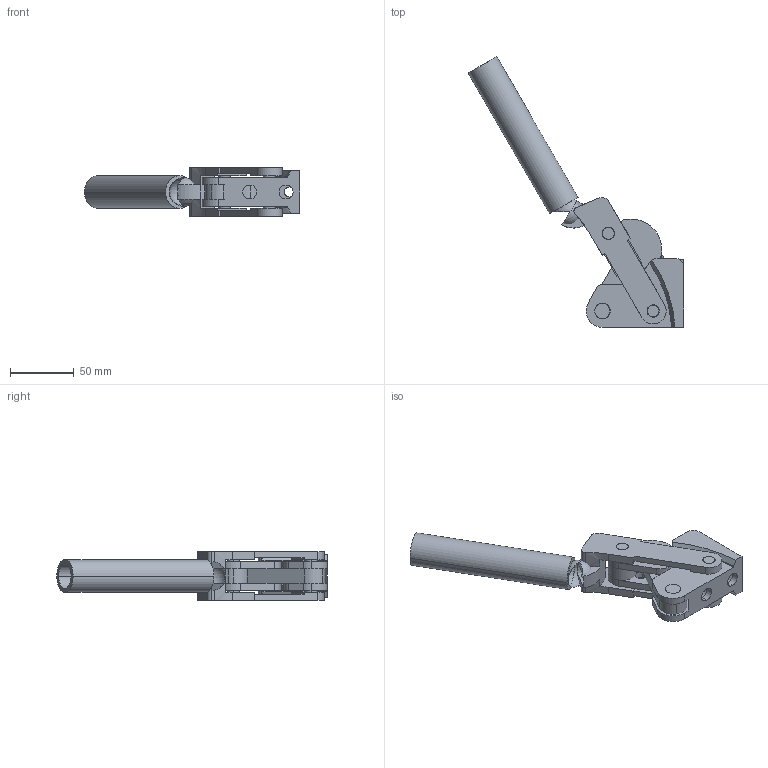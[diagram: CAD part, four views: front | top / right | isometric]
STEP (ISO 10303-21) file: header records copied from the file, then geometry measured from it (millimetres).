
FILE_DESCRIPTION( ( '' ), '1' );
FILE_NAME( 'C:\Documents and Settings\Richard Grenzke\My Documents\Wolverine Company Data\WOLVERINE CD 5_17_05\SOLIDS STEP\heavy_duty_compact\lyt1026.stp', ' ', ( '' ), ( '' ), 'ACIS Interop R16', 'Kubotek KeyCreator V5.5.1 (0454)', ' ' );
FILE_SCHEMA( ( 'CONFIG_CONTROL_DESIGN' ) );
Length unit declared in the file: inch
Products named in the file (9): 1; 2; 3; 4; 5; 6; 7; 8; 9
Bounding box: 168.26 x 211.43 x 38.1 mm (x, y, z)
Volume: 147672.7 mm3; surface area: 71622.1 mm2
Topology: 9 solids, 9 shells, 238 faces, 631 edges, 407 vertices
Faces by surface type: plane 128, cylinder 102, cone 6, sphere 2
Entity records: 8012 total; most frequent: CARTESIAN_POINT 1475, DIRECTION 1346, ORIENTED_EDGE 1254, EDGE_CURVE 627, AXIS2_PLACEMENT_3D 502, VERTEX_POINT 407, LINE 342, VECTOR 342
